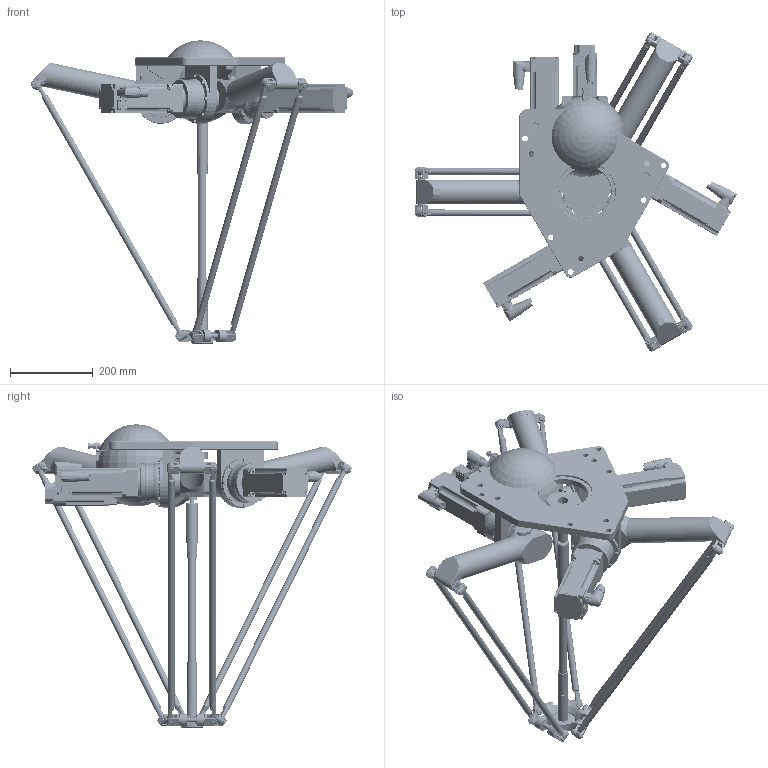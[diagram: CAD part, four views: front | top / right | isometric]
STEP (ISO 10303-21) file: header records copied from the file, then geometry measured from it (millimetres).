
FILE_DESCRIPTION (( 'STEP AP214' ), '1' );
FILE_NAME ('DR4090C-AX001.STEP', '2020-04-07T07:35:08', ( '' ), ( '' ), 'SwSTEP 2.0', 'SolidWorks 2017', '' );
FILE_SCHEMA (( 'AUTOMOTIVE_DESIGN' ));
Length unit declared in the file: millimetre
Products named in the file (4): DR4090C-AX001; 8LSA25_D9060S200_3_4; DR4090C-AX001_3D_ohne_Motor; 8LSAA2_D9045S200_3_1
Assembly tree (5 placements, depth 2):
  DR4090C-AX001
    DR4090C-AX001_3D_ohne_Motor
    8LSAA2_D9045S200_3_1  x3
    8LSA25_D9060S200_3_4
Bounding box: 776.37 x 768.87 x 731.31 mm (x, y, z)
Volume: 16219943.4 mm3; surface area: 1676159.2 mm2
Topology: 30 solids, 47 shells, 4460 faces, 10911 edges, 6988 vertices
Faces by surface type: plane 2384, cylinder 1167, cone 548, bspline 355, torus 6
Full cylindrical faces by diameter (mm): 1 x16, 2.3 x6, 2.5 x1, 3.2 x1, 3.459 x4, 3.917 x4, 4 x12, 4.13 x3, 4.917 x16, 5 x24, 5.188 x24, 5.3 x3, 5.5 x48, 5.8 x12, 6 x1, 6.2 x2, 6.5 x26, 8 x39, 8.5 x48, 9 x4, 10 x1, 11.4 x1, 11.5 x6, 12 x37, 13.5 x9, 14 x6, 16 x18, 16.199 x1, 16.999 x1, 18 x24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
Entity records: 143373 total; most frequent: CARTESIAN_POINT 40873, DIRECTION 14245, ORIENTED_EDGE 13752, EDGE_CURVE 6876, AXIS2_PLACEMENT_3D 5274, VERTEX_POINT 4741, EDGE_LOOP 4493, FACE_OUTER_BOUND 3837
